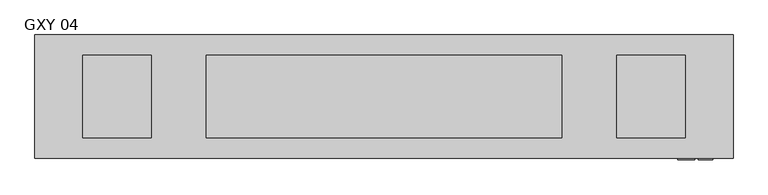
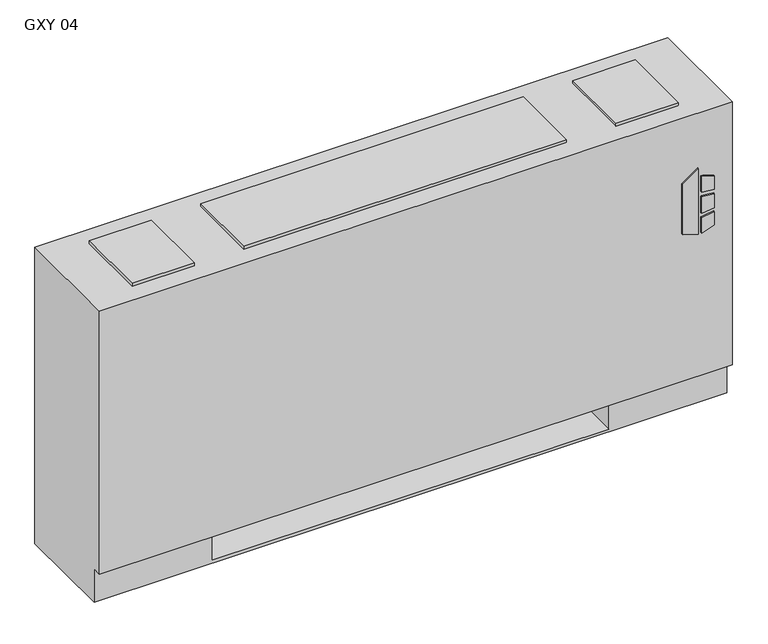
"""IFC4 building model written with IfcOpenShell, lengths in millimetres: proxy geometry, Vertical_Fan_Coil_Unit_-_GXY_-_IEC_-_2-Pipe_TS-FR_RH_2022 : GXY 04."""

import ifcopenshell
import ifcopenshell.guid

model = None  # the IFC model being written
_history = None  # IfcOwnerHistory: only IFC2X3 demands one
_inside = {}  # id of a spatial element -> (the spatial element, [elements in it])
_under = {}  # id of a project, library or spatial element -> (it, [spatial elements below it])
_declared = {}  # id of a project -> (the project, [libraries it declares])
_typed = {}  # id of a type object -> (the type object, [elements of that type])
_made_of = {}  # id of a material, layer set ... -> (it, [elements and type objects made of it])


def new_model(schema):
    """Start an empty IFC model of exactly this schema.

    Asked for "IFC4X3", IfcOpenShell would pick the latest addendum, in which some entities
    have other attributes; the version numbers below select the first issue.
    IFC2X3 requires an IfcOwnerHistory on every rooted entity: one is made here for all.
    """
    global model, _history
    if schema == "IFC4X3":
        model = ifcopenshell.file(schema_version=(4, 3, 0, 0))
    else:
        model = ifcopenshell.file(schema=schema)
    _inside.clear()
    _under.clear()
    _declared.clear()
    _typed.clear()
    _made_of.clear()
    _history = None
    if model.schema == "IFC2X3":
        org = make("IfcOrganization", Name="unknown")
        user = make(
            "IfcPersonAndOrganization",
            ThePerson=make("IfcPerson", FamilyName="unknown"),
            TheOrganization=org,
        )
        app = make(
            "IfcApplication",
            ApplicationDeveloper=org,
            Version="unknown",
            ApplicationFullName="unknown",
            ApplicationIdentifier="unknown",
        )
        _history = make(
            "IfcOwnerHistory",
            OwningUser=user,
            OwningApplication=app,
            ChangeAction="ADDED",
            CreationDate=0,
        )
    return model


def make(cls, **values):
    """One entity of the class cls with the attributes given. An attribute that is None is left unset."""
    return model.create_entity(
        cls, **{name: value for name, value in values.items() if value is not None}
    )


def rooted(cls, **values):
    """An entity with a GlobalId (a new one), such as an element, a storey or a relation."""
    return make(cls, GlobalId=ifcopenshell.guid.new(), OwnerHistory=_history, **values)


def si_unit(unit_type, name, prefix=None):
    """IfcSIUnit, for example si_unit("LENGTHUNIT", "METRE", prefix="MILLI")."""
    return make("IfcSIUnit", UnitType=unit_type, Prefix=prefix, Name=name)


def assignment(units):
    """IfcUnitAssignment: the units of a project."""
    return None if units is None else make("IfcUnitAssignment", Units=units)


def point(xyz):
    """IfcCartesianPoint."""
    return None if xyz is None else make("IfcCartesianPoint", Coordinates=xyz)


def direction(xyz):
    """IfcDirection."""
    return None if xyz is None else make("IfcDirection", DirectionRatios=xyz)


def frame(location, z_axis=None, x_axis=None):
    """IfcAxis2Placement3D, a coordinate frame: its origin and axes. An axis left out is left unset."""
    return make(
        "IfcAxis2Placement3D",
        Location=point(location),
        Axis=direction(z_axis),
        RefDirection=direction(x_axis),
    )


def frame_2d(location, x_axis=None):
    """IfcAxis2Placement2D, a coordinate frame in the plane: its origin and x axis."""
    return make(
        "IfcAxis2Placement2D", Location=point(location), RefDirection=direction(x_axis)
    )


def origin():
    """The frame at (0, 0, 0) with its axes left unset."""
    return frame((0.0, 0.0, 0.0))


def place(relative_to, where):
    """IfcLocalPlacement: puts the frame where relative to a parent placement (None: the world)."""
    return make(
        "IfcLocalPlacement", PlacementRelTo=relative_to, RelativePlacement=where
    )


def context(
    kind, dimensions, precision=None, world=None, true_north=None, identifier=None
):
    """IfcGeometricRepresentationContext, for example the 3D "Model" context."""
    return make(
        "IfcGeometricRepresentationContext",
        ContextIdentifier=identifier,
        ContextType=kind,
        CoordinateSpaceDimension=dimensions,
        Precision=precision,
        WorldCoordinateSystem=world,
        TrueNorth=true_north,
    )


def project(units=None, contexts=None):
    """IfcProject with its units and contexts."""
    return rooted(
        "IfcProject",
        Name="project",
        RepresentationContexts=contexts,
        UnitsInContext=assignment(units),
    )


def spatial(cls, under=None, at=None, **own):
    """A site, building, storey or space (cls), placed at a placement, below another one or the project."""
    s = rooted(cls, ObjectPlacement=at, **own)
    if under is not None:
        _under.setdefault(under.id(), (under, []))[1].append(s)
    return s


def polyline(points):
    """IfcPolyline through the points."""
    return make("IfcPolyline", Points=[point(p) for p in points])


def circle_curve(where, radius):
    """IfcCircle in the frame where."""
    return make("IfcCircle", Position=where, Radius=radius)


def trimmed(basis, trim1, trim2, sense, master):
    """IfcTrimmedCurve: the piece of a basis curve between two trims."""
    return make(
        "IfcTrimmedCurve",
        BasisCurve=basis,
        Trim1=trim1,
        Trim2=trim2,
        SenseAgreement=sense,
        MasterRepresentation=master,
    )


def segment(curve, same_sense, transition):
    """IfcCompositeCurveSegment."""
    return make(
        "IfcCompositeCurveSegment",
        Transition=transition,
        SameSense=same_sense,
        ParentCurve=curve,
    )


def composite_curve(segments, self_intersect=None):
    """IfcCompositeCurve: segments joined end to end."""
    return make("IfcCompositeCurve", Segments=segments, SelfIntersect=self_intersect)


def outline(outer, holes=None, kind="AREA"):
    """IfcArbitraryClosedProfileDef: a profile drawn as a closed curve; with holes, ...WithVoids."""
    if holes is None:
        return make("IfcArbitraryClosedProfileDef", ProfileType=kind, OuterCurve=outer)
    return make(
        "IfcArbitraryProfileDefWithVoids",
        ProfileType=kind,
        OuterCurve=outer,
        InnerCurves=holes,
    )


def extrude(swept, where, along, depth):
    """IfcExtrudedAreaSolid: the profile swept, set in the frame where, extruded along a direction by depth."""
    return make(
        "IfcExtrudedAreaSolid",
        SweptArea=swept,
        Position=where,
        ExtrudedDirection=direction(along),
        Depth=depth,
    )


def shape(context_of_items, identifier, shape_type, items):
    """IfcShapeRepresentation: the items that make up one representation, for example the "Body"."""
    return make(
        "IfcShapeRepresentation",
        ContextOfItems=context_of_items,
        RepresentationIdentifier=identifier,
        RepresentationType=shape_type,
        Items=items,
    )


def source(mapping_origin, context_of_items, identifier, shape_type, items):
    """IfcRepresentationMap: a shape defined once, which mapped items show again and again."""
    return make(
        "IfcRepresentationMap",
        MappingOrigin=mapping_origin,
        MappedRepresentation=shape(context_of_items, identifier, shape_type, items),
    )


def transform(
    local_origin,
    x_axis=None,
    y_axis=None,
    z_axis=None,
    scale=None,
    scale2=None,
    scale3=None,
    uniform=True,
):
    """IfcCartesianTransformationOperator3D, or its non-uniform kind. x_axis, y_axis, z_axis: its Axis1, 2, 3."""
    if uniform:
        return make(
            "IfcCartesianTransformationOperator3D",
            Axis1=direction(x_axis),
            Axis2=direction(y_axis),
            LocalOrigin=point(local_origin),
            Scale=scale,
            Axis3=direction(z_axis),
        )
    return make(
        "IfcCartesianTransformationOperator3DnonUniform",
        Axis1=direction(x_axis),
        Axis2=direction(y_axis),
        LocalOrigin=point(local_origin),
        Scale=scale,
        Axis3=direction(z_axis),
        Scale2=scale2,
        Scale3=scale3,
    )


def mapped(mapping_source, mapping_target):
    """IfcMappedItem: shows the shape of a source again, moved by a transform."""
    return make(
        "IfcMappedItem", MappingSource=mapping_source, MappingTarget=mapping_target
    )


def made_of(thing, what):
    """Note that an element or type object is made of a material, layer set ...; save() writes the relation."""
    if what is not None:
        _made_of.setdefault(what.id(), (what, []))[1].append(thing)
    return thing


def element(
    cls,
    number,
    at=None,
    inside=None,
    cuts=None,
    type_object=None,
    material=None,
    context=None,
    identifier="Body",
    shape_type=None,
    held_by="IfcProductDefinitionShape",
    body=None,
    shapes=None,
    **own,
):
    """One element of the class cls, such as IfcWall. Its Tag is "e" and its number.

    at: its placement. inside: the storey or other place that contains it. cuts: it is an
    opening in that element (IfcRelVoidsElement). A single representation is given by context,
    identifier, shape_type and body (its items); several are given by shapes. held_by: the class
    of the entity that holds the representations. save() writes the other relations.
    """
    e = rooted(cls, Tag="e%d" % number, ObjectPlacement=at, **own)
    if body is not None:
        shapes = [shape(context, identifier, shape_type, body)]
    if shapes is not None:
        e.Representation = make(held_by, Representations=shapes)
    if inside is not None:
        _inside.setdefault(inside.id(), (inside, []))[1].append(e)
    if cuts is not None:
        rooted(
            "IfcRelVoidsElement", RelatingBuildingElement=cuts, RelatedOpeningElement=e
        )
    if type_object is not None:
        _typed.setdefault(type_object.id(), (type_object, []))[1].append(e)
    return made_of(e, material)


def aggregate(whole, parts):
    """IfcRelAggregates: a whole, such as a stair, and the parts it consists of."""
    return rooted("IfcRelAggregates", RelatingObject=whole, RelatedObjects=parts)


def save(model, path):
    """Write the relations noted so far, then the file.

    IfcRelAggregates (storeys below a building ...), IfcRelContainedInSpatialStructure (elements
    in a storey), IfcRelDefinesByType, IfcRelAssociatesMaterial and IfcRelDeclares: one each for
    every whole, place, type object, material and project.
    """
    for whole, parts in _under.values():
        aggregate(whole, parts)
    for where, things in _inside.values():
        rooted(
            "IfcRelContainedInSpatialStructure",
            RelatedElements=things,
            RelatingStructure=where,
        )
    for kind, things in _typed.values():
        rooted("IfcRelDefinesByType", RelatedObjects=things, RelatingType=kind)
    for what, things in _made_of.values():
        rooted("IfcRelAssociatesMaterial", RelatedObjects=things, RelatingMaterial=what)
    for by, libraries in _declared.values():
        rooted("IfcRelDeclares", RelatingContext=by, RelatedDefinitions=libraries)
    model.write(path)


def plane_surface(at):
    """IfcPlane: the flat surface through the origin of the frame at, square to its z axis."""
    return make("IfcPlane", Position=at)


def revolved_surface(curve, axis_point, axis_direction):
    """IfcSurfaceOfRevolution: the curve turned about the line through axis_point along axis_direction."""
    return make(
        "IfcSurfaceOfRevolution",
        SweptCurve=make("IfcArbitraryOpenProfileDef", ProfileType="CURVE", Curve=curve),
        AxisPosition=make("IfcAxis1Placement", Location=point(axis_point), Axis=direction(axis_direction)),
    )


def advanced_brep(points, edges, surfaces, faces):
    """IfcAdvancedBrep: a solid bounded by faces that lie on surfaces and meet in shared edges.

    An edge is (start, end): straight between two places in points (the first is 0);
    or (start, end, curve); or (start, end, curve, False) where it runs against its curve.
    A face is (place in surfaces, loops), or (place, loops, False) where it looks against
    its surface's normal. A loop lists edges by number (the first is 1), with a minus sign
    where the edge is run from its end to its start. The first loop is the outer one.
    """
    corners = [point(p) for p in points]
    vertices = [make("IfcVertexPoint", VertexGeometry=c) for c in corners]
    made = []
    for start, end, *more in edges:
        made.append(
            make(
                "IfcEdgeCurve",
                EdgeStart=vertices[start],
                EdgeEnd=vertices[end],
                EdgeGeometry=more[0] if more else make("IfcPolyline", Points=[corners[start], corners[end]]),
                SameSense=more[1] if len(more) > 1 else True,
            )
        )
    hull = []
    for where, loops, *sense in faces:
        bounds = []
        for j, loop in enumerate(loops):
            ring = [make("IfcOrientedEdge", EdgeElement=made[abs(k) - 1], Orientation=k > 0) for k in loop]
            bounds.append(
                make(
                    "IfcFaceOuterBound" if j == 0 else "IfcFaceBound",
                    Bound=make("IfcEdgeLoop", EdgeList=ring),
                    Orientation=True,
                )
            )
        hull.append(make("IfcAdvancedFace", Bounds=bounds, FaceSurface=surfaces[where], SameSense=sense[0] if sense else True))
    return make("IfcAdvancedBrep", Outer=make("IfcClosedShell", CfsFaces=hull))


def gxy_04_35a2ad64(model_context):
    return source(origin(), model_context, "Body", "SolidModel", [
        extrude(outline(polyline([(391.6086829, 696.9868862), (381.6606126, 729.1602728), (523.831537, 729.1602728), (500.8095309, 696.9868862), (391.6086829, 696.9868862)])), frame((0.0, 12.7, 0.0), z_axis=(0.0, 1.0, 0.0), x_axis=(0.0, 0.0, 1.0)), (0.0, 0.0, 1.0), 3.175),
        extrude(outline(polyline([(470.6079683, 735.9186058), (467.4055757, 762.0), (496.6344168, 762.0), (504.6988318, 735.9186058), (470.6079683, 735.9186058)])), frame((0.0, 12.7, 0.0), z_axis=(0.0, 1.0, 0.0), x_axis=(0.0, 0.0, 1.0)), (0.0, 0.0, 1.0), 3.175),
        extrude(outline(polyline([(418.7444414, 762.0), (415.0789404, 735.9186058), (381.6606126, 735.9186058), (390.2948498, 762.0), (418.7444414, 762.0)])), frame((0.0, 12.7, 0.0), z_axis=(0.0, 1.0, 0.0), x_axis=(0.0, 0.0, 1.0)), (0.0, 0.0, 1.0), 3.175),
        extrude(outline(polyline([(458.0596028, 762.0), (460.3414292, 735.9186058), (424.4038806, 735.9186058), (427.1451456, 762.0), (458.0596028, 762.0)])), frame((0.0, 12.7, 0.0), z_axis=(0.0, 1.0, 0.0), x_axis=(0.0, 0.0, 1.0)), (0.0, 0.0, 1.0), 3.175),
        extrude(outline(polyline([(-374.65, 81.534), (-374.65, 223.266), (-127.0, 223.266), (-127.0, 81.534), (-374.65, 81.534)])), frame((0.0, 0.0, 327.025), z_axis=(0.0, 0.0, 1.0), x_axis=(1.0, 0.0, 0.0)), (0.0, 0.0, 1.0), 260.35),
        extrude(outline(polyline([(-279.4, 206.375), (-279.4, 53.975), (-406.4, 53.975), (-406.4, 206.375), (-279.4, 206.375)])), frame((0.0, 0.0, 641.35), z_axis=(0.0, 0.0, 1.0), x_axis=(1.0, 0.0, 0.0)), (0.0, 0.0, 1.0), 6.35),
        extrude(outline(polyline([(711.2, 206.375), (711.2, 53.975), (584.2, 53.975), (584.2, 206.375), (711.2, 206.375)])), frame((0.0, 0.0, 641.35), z_axis=(0.0, 0.0, 1.0), x_axis=(1.0, 0.0, 0.0)), (0.0, 0.0, 1.0), 6.35),
        extrude(outline(composite_curve([segment(trimmed(circle_curve(frame_2d((78.9432, 398.5514)), 7.9375), [point((78.9432, 406.4889))], [point((78.9432, 390.6139))], False, "CARTESIAN"), True, "CONTINUOUS"), segment(trimmed(circle_curve(frame_2d((78.9432, 398.5514)), 7.9375), [point((78.9432, 390.6139))], [point((78.9432, 406.4889))], False, "CARTESIAN"), True, "CONTINUOUS")], self_intersect=False)), frame((558.8, 0.0, 0.0), z_axis=(1.0, 0.0, 0.0), x_axis=(0.0, 1.0, 0.0)), (0.0, 0.0, 1.0), 50.8),
        extrude(outline(composite_curve([segment(trimmed(circle_curve(frame_2d((155.9052, 537.3878)), 7.9375), [point((155.9052, 545.3253))], [point((155.9052, 529.4503))], False, "CARTESIAN"), True, "CONTINUOUS"), segment(trimmed(circle_curve(frame_2d((155.9052, 537.3878)), 7.9375), [point((155.9052, 529.4503))], [point((155.9052, 545.3253))], False, "CARTESIAN"), True, "CONTINUOUS")], self_intersect=False)), frame((558.8, 0.0, 0.0), z_axis=(1.0, 0.0, 0.0), x_axis=(0.0, 1.0, 0.0)), (0.0, 0.0, 1.0), 50.8),
        advanced_brep(
        [(800.1, 244.475, 641.35), (-495.3, 244.475, 641.35), (-495.3, 15.875, 641.35), (800.1, 15.875, 641.35), (-495.3, 244.475, 0.0), (800.1, 244.475, 0.0), (800.1, 34.925, 0.0), (-495.3, 34.925, 0.0), (558.8, 244.475, 73.025), (787.4, 244.475, 73.025), (787.4, 244.475, 628.65), (558.8, 244.475, 628.65), (558.8, 244.475, 418.0400565), (587.375, 244.475, 418.0400565), (587.375, 244.475, 388.4099435), (558.8, 244.475, 388.4099435), (558.8, 244.475, 290.5125), (587.375, 244.475, 290.5125), (587.375, 244.475, 261.9375), (558.8, 244.475, 261.9375), (558.8, 244.475, 119.0625), (587.375, 244.475, 119.0625), (587.375, 244.475, 90.4875), (558.8, 244.475, 90.4875), (-254.0, 244.475, 628.65), (-482.6, 244.475, 628.65), (-482.6, 244.475, 73.025), (-254.0, 244.475, 73.025), (-254.0, 244.475, 90.4875), (-282.575, 244.475, 90.4875), (-282.575, 244.475, 119.0625), (-254.0, 244.475, 119.0625), (-254.0, 244.475, 261.9375), (-282.575, 244.475, 261.9375), (-282.575, 244.475, 290.5125), (-254.0, 244.475, 290.5125), (-254.0, 244.475, 388.4099435), (-282.575, 244.475, 388.4099435), (-282.575, 244.475, 418.0400565), (-254.0, 244.475, 418.0400565), (577.0626, 244.475, 104.775), (565.9374, 244.475, 104.775), (577.0626, 244.475, 403.225), (565.9374, 244.475, 403.225), (577.0626, 244.475, 276.225), (565.9374, 244.475, 276.225), (-261.1374, 244.475, 104.775), (-272.2626, 244.475, 104.775), (-261.1374, 244.475, 276.225), (-272.2626, 244.475, 276.225), (-261.1374, 244.475, 403.225), (-272.2626, 244.475, 403.225), (-495.3, 34.925, 73.025), (-495.3, 15.875, 73.025), (800.1, 15.875, 73.025), (800.1, 34.925, 73.025), (-254.0, 34.925, 73.025), (-254.0, 219.075, 73.025), (558.8, 219.075, 73.025), (558.8, 34.925, 73.025), (558.8, 34.925, 6.35), (-254.0, 34.925, 6.35), (558.8, 41.275, 628.65), (787.4, 41.275, 628.65), (787.4, 41.275, 73.025), (558.8, 41.275, 73.025), (-254.0, 41.275, 628.65), (-254.0, 41.275, 73.025), (-482.6, 41.275, 73.025), (-482.6, 41.275, 628.65), (558.8, 219.075, 73.025), (558.8, 238.125, 90.4875), (558.8, 238.125, 119.0625), (558.8, 238.125, 261.9375), (558.8, 238.125, 290.5125), (558.8, 238.125, 388.4099435), (558.8, 238.125, 418.0400565), (-254.0, 219.075, 73.025), (-254.0, 238.125, 418.0400565), (-254.0, 238.125, 388.4099435), (-254.0, 238.125, 290.5125), (-254.0, 238.125, 261.9375), (-254.0, 238.125, 119.0625), (-254.0, 238.125, 90.4875), (-254.0, 219.075, 6.35), (558.8, 219.075, 6.35), (587.375, 238.125, 90.4875), (587.375, 238.125, 119.0625), (565.9374, 238.125, 104.775), (577.0626, 238.125, 104.775), (587.375, 238.125, 261.9375), (587.375, 238.125, 290.5125), (565.9374, 238.125, 276.225), (577.0626, 238.125, 276.225), (587.375, 238.125, 388.4099435), (587.375, 238.125, 418.0400565), (565.9374, 238.125, 403.225), (577.0626, 238.125, 403.225), (-282.575, 238.125, 119.0625), (-282.575, 238.125, 90.4875), (-272.2626, 238.125, 104.775), (-261.1374, 238.125, 104.775), (-282.575, 238.125, 290.5125), (-282.575, 238.125, 261.9375), (-272.2626, 238.125, 276.225), (-261.1374, 238.125, 276.225), (-282.575, 238.125, 418.0400565), (-282.575, 238.125, 388.4099435), (-272.2626, 238.125, 403.225), (-261.1374, 238.125, 403.225)],
        [
            (0, 1),
            (1, 2),
            (2, 3),
            (3, 0),
            (4, 5),
            (5, 6),
            (6, 7),
            (7, 4),
            (0, 5),
            (4, 1),
            (8, 9),
            (9, 10),
            (10, 11),
            (11, 12),
            (12, 13),
            (13, 14),
            (14, 15),
            (15, 16),
            (16, 17),
            (17, 18),
            (18, 19),
            (19, 20),
            (20, 21),
            (21, 22),
            (22, 23),
            (23, 8),
            (24, 25),
            (25, 26),
            (26, 27),
            (27, 28),
            (28, 29),
            (29, 30),
            (30, 31),
            (31, 32),
            (32, 33),
            (33, 34),
            (34, 35),
            (35, 36),
            (36, 37),
            (37, 38),
            (38, 39),
            (39, 24),
            (40, 41, circle_curve(frame((571.5, 244.475, 104.775), z_axis=(0.0, -1.0, 0.0), x_axis=(-1.0, 0.0, 0.0)), 5.5626)),
            (41, 40, circle_curve(frame((571.5, 244.475, 104.775), z_axis=(0.0, -1.0, 0.0), x_axis=(-1.0, 0.0, 0.0)), 5.5626)),
            (42, 43, circle_curve(frame((571.5, 244.475, 403.225), z_axis=(0.0, -1.0, 0.0), x_axis=(-1.0, 0.0, 0.0)), 5.5626)),
            (43, 42, circle_curve(frame((571.5, 244.475, 403.225), z_axis=(0.0, -1.0, 0.0), x_axis=(-1.0, 0.0, 0.0)), 5.5626)),
            (44, 45, circle_curve(frame((571.5, 244.475, 276.225), z_axis=(0.0, -1.0, 0.0), x_axis=(-1.0, 0.0, 0.0)), 5.5626)),
            (45, 44, circle_curve(frame((571.5, 244.475, 276.225), z_axis=(0.0, -1.0, 0.0), x_axis=(-1.0, 0.0, 0.0)), 5.5626)),
            (46, 47, circle_curve(frame((-266.7, 244.475, 104.775), z_axis=(0.0, -1.0, 0.0), x_axis=(-1.0, 0.0, 0.0)), 5.5626)),
            (47, 46, circle_curve(frame((-266.7, 244.475, 104.775), z_axis=(0.0, -1.0, 0.0), x_axis=(-1.0, 0.0, 0.0)), 5.5626)),
            (48, 49, circle_curve(frame((-266.7, 244.475, 276.225), z_axis=(0.0, -1.0, 0.0), x_axis=(-1.0, 0.0, 0.0)), 5.5626)),
            (49, 48, circle_curve(frame((-266.7, 244.475, 276.225), z_axis=(0.0, -1.0, 0.0), x_axis=(-1.0, 0.0, 0.0)), 5.5626)),
            (50, 51, circle_curve(frame((-266.7, 244.475, 403.225), z_axis=(0.0, -1.0, 0.0), x_axis=(-1.0, 0.0, 0.0)), 5.5626)),
            (51, 50, circle_curve(frame((-266.7, 244.475, 403.225), z_axis=(0.0, -1.0, 0.0), x_axis=(-1.0, 0.0, 0.0)), 5.5626)),
            (7, 52),
            (52, 53),
            (53, 2),
            (53, 54),
            (54, 3),
            (54, 55),
            (55, 6),
            (52, 56),
            (56, 57),
            (57, 58),
            (58, 59),
            (59, 55),
            (59, 60),
            (60, 61),
            (61, 56),
            (62, 63),
            (63, 64),
            (64, 65),
            (65, 62),
            (66, 67),
            (67, 68),
            (68, 69),
            (69, 66),
            (65, 70),
            (70, 8),
            (23, 71),
            (71, 72),
            (72, 20),
            (19, 73),
            (73, 74),
            (74, 16),
            (15, 75),
            (75, 76),
            (76, 12),
            (11, 62),
            (64, 9),
            (63, 10),
            (69, 25),
            (24, 66),
            (68, 26),
            (67, 77),
            (77, 27),
            (39, 78),
            (78, 79),
            (79, 36),
            (35, 80),
            (80, 81),
            (81, 32),
            (31, 82),
            (82, 83),
            (83, 28),
            (57, 84),
            (84, 85),
            (85, 58),
            (85, 60),
            (84, 61),
            (71, 86),
            (86, 87),
            (87, 72),
            (88, 89, circle_curve(frame((571.5, 238.125, 104.775), z_axis=(0.0, 1.0, 0.0), x_axis=(-1.0, 0.0, 0.0)), 5.5626)),
            (89, 88, circle_curve(frame((571.5, 238.125, 104.775), z_axis=(0.0, 1.0, 0.0), x_axis=(-1.0, 0.0, 0.0)), 5.5626)),
            (73, 90),
            (90, 91),
            (91, 74),
            (92, 93, circle_curve(frame((571.5, 238.125, 276.225), z_axis=(0.0, 1.0, 0.0), x_axis=(-1.0, 0.0, 0.0)), 5.5626)),
            (93, 92, circle_curve(frame((571.5, 238.125, 276.225), z_axis=(0.0, 1.0, 0.0), x_axis=(-1.0, 0.0, 0.0)), 5.5626)),
            (75, 94),
            (94, 95),
            (95, 76),
            (96, 97, circle_curve(frame((571.5, 238.125, 403.225), z_axis=(0.0, 1.0, 0.0), x_axis=(-1.0, 0.0, 0.0)), 5.5626)),
            (97, 96, circle_curve(frame((571.5, 238.125, 403.225), z_axis=(0.0, 1.0, 0.0), x_axis=(-1.0, 0.0, 0.0)), 5.5626)),
            (98, 99),
            (99, 83),
            (82, 98),
            (100, 101, circle_curve(frame((-266.7, 238.125, 104.775), z_axis=(0.0, 1.0, 0.0), x_axis=(-1.0, 0.0, 0.0)), 5.5626)),
            (101, 100, circle_curve(frame((-266.7, 238.125, 104.775), z_axis=(0.0, 1.0, 0.0), x_axis=(-1.0, 0.0, 0.0)), 5.5626)),
            (102, 103),
            (103, 81),
            (80, 102),
            (104, 105, circle_curve(frame((-266.7, 238.125, 276.225), z_axis=(0.0, 1.0, 0.0), x_axis=(-1.0, 0.0, 0.0)), 5.5626)),
            (105, 104, circle_curve(frame((-266.7, 238.125, 276.225), z_axis=(0.0, 1.0, 0.0), x_axis=(-1.0, 0.0, 0.0)), 5.5626)),
            (106, 107),
            (107, 79),
            (78, 106),
            (108, 109, circle_curve(frame((-266.7, 238.125, 403.225), z_axis=(0.0, 1.0, 0.0), x_axis=(-1.0, 0.0, 0.0)), 5.5626)),
            (109, 108, circle_curve(frame((-266.7, 238.125, 403.225), z_axis=(0.0, 1.0, 0.0), x_axis=(-1.0, 0.0, 0.0)), 5.5626)),
            (87, 21),
            (86, 22),
            (91, 17),
            (90, 18),
            (95, 13),
            (94, 14),
            (30, 98),
            (99, 29),
            (34, 102),
            (103, 33),
            (38, 106),
            (107, 37),
            (88, 41),
            (40, 89),
            (96, 43),
            (42, 97),
            (92, 45),
            (44, 93),
            (100, 47),
            (46, 101),
            (104, 49),
            (48, 105),
            (108, 51),
            (50, 109),
        ],
        [
            plane_surface(frame((-495.3, 244.475, 641.35), z_axis=(0.0, 0.0, 1.0), x_axis=(-1.0, 0.0, 0.0))),
            plane_surface(frame((-495.3, 244.475, 0.0), z_axis=(0.0, 0.0, -1.0), x_axis=(1.0, 0.0, 0.0))),
            plane_surface(frame((800.1, 244.475, 641.35), z_axis=(0.0, 1.0, 0.0), x_axis=(0.0, 0.0, -1.0))),
            plane_surface(frame((-495.3, 244.475, 641.35), z_axis=(-1.0, 0.0, 0.0), x_axis=(0.0, 0.0, -1.0))),
            plane_surface(frame((-495.3, 15.875, 641.35), z_axis=(0.0, -1.0, 0.0), x_axis=(0.0, 0.0, -1.0))),
            plane_surface(frame((800.1, 15.875, 641.35), z_axis=(1.0, 0.0, 0.0), x_axis=(0.0, 0.0, -1.0))),
            plane_surface(frame((-495.3, 15.875, 73.025), z_axis=(0.0, 0.0, -1.0), x_axis=(1.0, 0.0, 0.0))),
            plane_surface(frame((-495.3, 34.925, 73.025), z_axis=(0.0, -1.0, 0.0), x_axis=(1.0, 0.0, 0.0))),
            plane_surface(frame((558.8, 41.275, 628.65), z_axis=(0.0, 1.0, 0.0), x_axis=(0.0, 0.0, -1.0))),
            plane_surface(frame((558.8, 41.275, 628.65), z_axis=(1.0, 0.0, 0.0), x_axis=(0.0, 1.0, 0.0))),
            plane_surface(frame((558.8, 41.275, 73.025), z_axis=(0.0, 0.0, 1.0), x_axis=(0.0, 1.0, 0.0))),
            plane_surface(frame((787.4, 41.275, 73.025), z_axis=(-1.0, 0.0, 0.0), x_axis=(0.0, 1.0, 0.0))),
            plane_surface(frame((787.4, 41.275, 628.65), z_axis=(0.0, 0.0, -1.0), x_axis=(0.0, 1.0, 0.0))),
            plane_surface(frame((-254.0, 41.275, 628.65), z_axis=(0.0, 0.0, -1.0), x_axis=(0.0, 1.0, 0.0))),
            plane_surface(frame((-482.6, 41.275, 628.65), z_axis=(1.0, 0.0, 0.0), x_axis=(0.0, 1.0, 0.0))),
            plane_surface(frame((-482.6, 41.275, 73.025), z_axis=(0.0, 0.0, 1.0), x_axis=(0.0, 1.0, 0.0))),
            plane_surface(frame((-254.0, 41.275, 73.025), z_axis=(-1.0, 0.0, 0.0), x_axis=(0.0, 1.0, 0.0))),
            plane_surface(frame((558.8, 219.075, 73.025), z_axis=(0.0, -1.0, 0.0), x_axis=(0.0, 0.0, -1.0))),
            plane_surface(frame((558.8, 219.075, 73.025), z_axis=(-1.0, 0.0, 0.0), x_axis=(0.0, -1.0, 0.0))),
            plane_surface(frame((558.8, 219.075, 6.35), z_axis=(0.0, 0.0, 1.0), x_axis=(0.0, -1.0, 0.0))),
            plane_surface(frame((-254.0, 219.075, 6.35), z_axis=(1.0, 0.0, 0.0), x_axis=(0.0, -1.0, 0.0))),
            plane_surface(frame((587.375, 238.125, 119.0625), z_axis=(0.0, -1.0, 0.0), x_axis=(-1.0, 0.0, 0.0))),
            plane_surface(frame((558.8, 244.475, 119.0625), z_axis=(0.0, 0.0, 1.0), x_axis=(0.0, -1.0, 0.0))),
            plane_surface(frame((587.375, 244.475, 119.0625), z_axis=(1.0, 0.0, 0.0), x_axis=(0.0, -1.0, 0.0))),
            plane_surface(frame((587.375, 244.475, 90.4875), z_axis=(0.0, 0.0, -1.0), x_axis=(0.0, -1.0, 0.0))),
            plane_surface(frame((558.8, 244.475, 290.5125), z_axis=(0.0, 0.0, 1.0), x_axis=(0.0, -1.0, 0.0))),
            plane_surface(frame((587.375, 244.475, 290.5125), z_axis=(1.0, 0.0, 0.0), x_axis=(0.0, -1.0, 0.0))),
            plane_surface(frame((587.375, 244.475, 261.9375), z_axis=(0.0, 0.0, -1.0), x_axis=(0.0, -1.0, 0.0))),
            plane_surface(frame((558.8, 244.475, 418.0400565), z_axis=(0.0, 0.0, 1.0), x_axis=(0.0, -1.0, 0.0))),
            plane_surface(frame((587.375, 244.475, 418.0400565), z_axis=(1.0, 0.0, 0.0), x_axis=(0.0, -1.0, 0.0))),
            plane_surface(frame((587.375, 244.475, 388.4099435), z_axis=(0.0, 0.0, -1.0), x_axis=(0.0, -1.0, 0.0))),
            plane_surface(frame((-282.575, 244.475, 119.0625), z_axis=(0.0, 0.0, 1.0), x_axis=(0.0, -1.0, 0.0))),
            plane_surface(frame((-254.0, 244.475, 90.4875), z_axis=(0.0, 0.0, -1.0), x_axis=(0.0, -1.0, 0.0))),
            plane_surface(frame((-282.575, 244.475, 90.4875), z_axis=(-1.0, 0.0, 0.0), x_axis=(0.0, -1.0, 0.0))),
            plane_surface(frame((-282.575, 244.475, 290.5125), z_axis=(0.0, 0.0, 1.0), x_axis=(0.0, -1.0, 0.0))),
            plane_surface(frame((-254.0, 244.475, 261.9375), z_axis=(0.0, 0.0, -1.0), x_axis=(0.0, -1.0, 0.0))),
            plane_surface(frame((-282.575, 244.475, 261.9375), z_axis=(-1.0, 0.0, 0.0), x_axis=(0.0, -1.0, 0.0))),
            plane_surface(frame((-282.575, 244.475, 418.0400565), z_axis=(0.0, 0.0, 1.0), x_axis=(0.0, -1.0, 0.0))),
            plane_surface(frame((-254.0, 244.475, 388.4099435), z_axis=(0.0, 0.0, -1.0), x_axis=(0.0, -1.0, 0.0))),
            plane_surface(frame((-282.575, 244.475, 388.4099435), z_axis=(-1.0, 0.0, 0.0), x_axis=(0.0, -1.0, 0.0))),
            revolved_surface(polyline([(565.9374, 238.125, 104.775), (565.9374, 244.475, 104.775)]), (571.5, 244.475, 104.775), (0.0, -1.0, 0.0)),
            revolved_surface(polyline([(565.9374, 238.125, 403.225), (565.9374, 244.475, 403.225)]), (571.5, 244.475, 403.225), (0.0, -1.0, 0.0)),
            revolved_surface(polyline([(565.9374, 238.125, 276.225), (565.9374, 244.475, 276.225)]), (571.5, 244.475, 276.225), (0.0, -1.0, 0.0)),
            revolved_surface(polyline([(-272.26259999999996, 238.125, 104.775), (-272.26259999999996, 244.475, 104.775)]), (-266.7, 244.475, 104.775), (0.0, -1.0, 0.0)),
            revolved_surface(polyline([(-272.26259999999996, 238.125, 276.225), (-272.26259999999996, 244.475, 276.225)]), (-266.7, 244.475, 276.225), (0.0, -1.0, 0.0)),
            revolved_surface(polyline([(-272.26259999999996, 238.125, 403.225), (-272.26259999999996, 244.475, 403.225)]), (-266.7, 244.475, 403.225), (0.0, -1.0, 0.0)),
        ],
        [
            (0, [[1, 2, 3, 4]]),
            (1, [[5, 6, 7, 8]]),
            (2, [[-1, 9, -5, 10], [11, 12, 13, 14, 15, 16, 17, 18, 19, 20, 21, 22, 23, 24, 25, 26], [27, 28, 29, 30, 31, 32, 33, 34, 35, 36, 37, 38, 39, 40, 41, 42], [43, 44], [45, 46], [47, 48], [49, 50], [51, 52], [53, 54]]),
            (3, [[-2, -10, -8, 55, 56, 57]]),
            (4, [[-3, -57, 58, 59]]),
            (5, [[-4, -59, 60, 61, -6, -9]]),
            (6, [[-56, 62, 63, 64, 65, 66, -60, -58]]),
            (7, [[-7, -61, -66, 67, 68, 69, -62, -55]]),
            (8, [[70, 71, 72, 73]]),
            (8, [[74, 75, 76, 77]]),
            (9, [[-73, 78, 79, -26, 80, 81, 82, -22, 83, 84, 85, -18, 86, 87, 88, -14, 89]]),
            (10, [[-72, 90, -11, -79, -78]]),
            (11, [[-71, 91, -12, -90]]),
            (12, [[-70, -89, -13, -91]]),
            (13, [[-77, 92, -27, 93]]),
            (14, [[-76, 94, -28, -92]]),
            (15, [[-75, 95, 96, -29, -94]]),
            (16, [[-74, -93, -42, 97, 98, 99, -38, 100, 101, 102, -34, 103, 104, 105, -30, -96, -95]]),
            (17, [[-64, 106, 107, 108]]),
            (18, [[-108, 109, -67, -65]]),
            (19, [[-107, 110, -68, -109]]),
            (20, [[-106, -63, -69, -110]]),
            (21, [[111, 112, 113, -81], [114, 115]]),
            (21, [[116, 117, 118, -84], [119, 120]]),
            (21, [[121, 122, 123, -87], [124, 125]]),
            (21, [[126, 127, -104, 128], [129, 130]]),
            (21, [[131, 132, -101, 133], [134, 135]]),
            (21, [[136, 137, -98, 138], [139, 140]]),
            (22, [[-113, 141, -23, -82]]),
            (23, [[-112, 142, -24, -141]]),
            (24, [[-111, -80, -25, -142]]),
            (25, [[-118, 143, -19, -85]]),
            (26, [[-117, 144, -20, -143]]),
            (27, [[-116, -83, -21, -144]]),
            (28, [[-123, 145, -15, -88]]),
            (29, [[-122, 146, -16, -145]]),
            (30, [[-121, -86, -17, -146]]),
            (31, [[-128, -103, -33, 147]]),
            (32, [[-127, 148, -31, -105]]),
            (33, [[-126, -147, -32, -148]]),
            (34, [[-133, -100, -37, 149]]),
            (35, [[-132, 150, -35, -102]]),
            (36, [[-131, -149, -36, -150]]),
            (37, [[-138, -97, -41, 151]]),
            (38, [[-137, 152, -39, -99]]),
            (39, [[-136, -151, -40, -152]]),
            (40, [[153, -43, 154, -114]]),
            (40, [[-153, -115, -154, -44]]),
            (41, [[155, -45, 156, -124]]),
            (41, [[-155, -125, -156, -46]]),
            (42, [[157, -47, 158, -119]]),
            (42, [[-157, -120, -158, -48]]),
            (43, [[159, -49, 160, -129]]),
            (43, [[-159, -130, -160, -50]]),
            (44, [[161, -51, 162, -134]]),
            (44, [[-161, -135, -162, -52]]),
            (45, [[163, -53, 164, -139]]),
            (45, [[-163, -140, -164, -54]]),
        ],
    ),
        extrude(outline(polyline([(482.6, 206.375), (482.6, 53.975), (-177.8, 53.975), (-177.8, 206.375), (482.6, 206.375)])), frame((0.0, 0.0, 641.35), z_axis=(0.0, 0.0, 1.0), x_axis=(1.0, 0.0, 0.0)), (0.0, 0.0, 1.0), 6.35),
    ])


if __name__ == "__main__":
    model = new_model("IFC4")
    model_context = context("Model", 3, world=origin())
    ifc_project = project(units=[si_unit("LENGTHUNIT", "METRE", prefix="MILLI")], contexts=[model_context])
    site = spatial("IfcSite", under=ifc_project)
    building = spatial("IfcBuilding", under=site)
    placement = place(None, origin())
    gxy_04_shape = gxy_04_35a2ad64(model_context)
    element("IfcBuildingElementProxy", 1, Name="Vertical_Fan_Coil_Unit_-_GXY_-_IEC_-_2-Pipe_TS-FR_RH_2022 : GXY 04", ObjectType="Vertical_Fan_Coil_Unit_-_GXY_-_IEC_-_2-Pipe_TS-FR_RH_2022 : GXY 04", at=placement, inside=building, context=model_context, shape_type="MappedRepresentation", body=[
        mapped(gxy_04_shape, transform((0.0, 0.0, 0.0), x_axis=(1.0, 0.0, 0.0), y_axis=(0.0, 1.0, 0.0), z_axis=(0.0, 0.0, 1.0))),
    ])
    save(model, "model.ifc")
